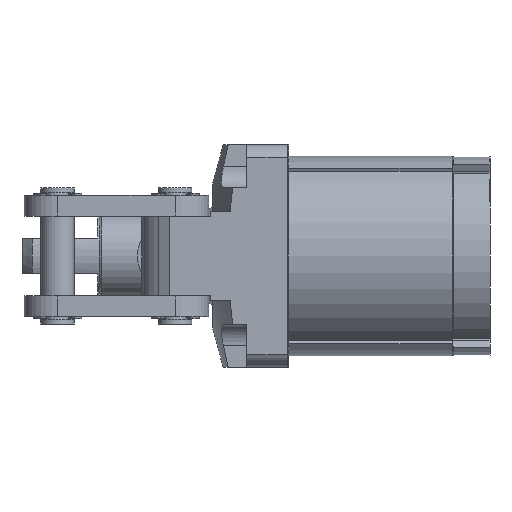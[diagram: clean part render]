
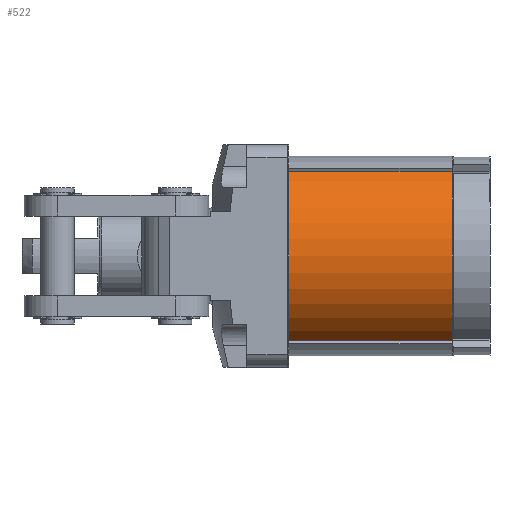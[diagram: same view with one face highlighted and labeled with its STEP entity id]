
A CAD part, left-side view. The second image highlights one B-rep face of the part: STEP entity #522.
In plain terms, the highlighted cylindrical face has radius 47.5 mm (diameter 95 mm), a partial arc.
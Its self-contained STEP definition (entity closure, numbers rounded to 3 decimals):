
#522 = ADVANCED_FACE( '', ( #1073 ), #1074, .T. );
#1073 = FACE_OUTER_BOUND( '', #1898, .T. );
#1074 = CYLINDRICAL_SURFACE( '', #1899, 47.5 );
#1898 = EDGE_LOOP( '', ( #3549, #3550, #3551, #3552 ) );
#1899 = AXIS2_PLACEMENT_3D( '', #3553, #3554, #3555 );
#3549 = ORIENTED_EDGE( '', *, *, #5673, .F. );
#3550 = ORIENTED_EDGE( '', *, *, #5726, .T. );
#3551 = ORIENTED_EDGE( '', *, *, #5602, .T. );
#3552 = ORIENTED_EDGE( '', *, *, #5727, .F. );
#3553 = CARTESIAN_POINT( '', ( 0., -78., 0. ) );
#3554 = DIRECTION( '', ( 0., -1., 0. ) );
#3555 = DIRECTION( '', ( -1., 0., 0. ) );
#5602 = EDGE_CURVE( '', #6744, #6742, #6745, .T. );
#5673 = EDGE_CURVE( '', #6857, #6859, #6860, .T. );
#5726 = EDGE_CURVE( '', #6857, #6744, #6949, .T. );
#5727 = EDGE_CURVE( '', #6859, #6742, #6950, .T. );
#6742 = VERTEX_POINT( '', #8934 );
#6744 = VERTEX_POINT( '', #8937 );
#6745 = CIRCLE( '', #8938, 47.5 );
#6857 = VERTEX_POINT( '', #9096 );
#6859 = VERTEX_POINT( '', #9099 );
#6860 = CIRCLE( '', #9100, 47.5 );
#6949 = LINE( '', #9230, #9231 );
#6950 = LINE( '', #9232, #9233 );
#8934 = CARTESIAN_POINT( '', ( -25.122, 0., -40.313 ) );
#8937 = CARTESIAN_POINT( '', ( -25.122, 0., 40.313 ) );
#8938 = AXIS2_PLACEMENT_3D( '', #10795, #10796, #10797 );
#9096 = CARTESIAN_POINT( '', ( -25.122, -78., 40.313 ) );
#9099 = CARTESIAN_POINT( '', ( -25.122, -78., -40.313 ) );
#9100 = AXIS2_PLACEMENT_3D( '', #10914, #10915, #10916 );
#9230 = CARTESIAN_POINT( '', ( -25.122, -78., 40.313 ) );
#9231 = VECTOR( '', #10991, 1000. );
#9232 = CARTESIAN_POINT( '', ( -25.122, -78., -40.313 ) );
#9233 = VECTOR( '', #10992, 1000. );
#10795 = CARTESIAN_POINT( '', ( 0., 0., 0. ) );
#10796 = DIRECTION( '', ( 0., -1., 0. ) );
#10797 = DIRECTION( '', ( 0., 0., 1. ) );
#10914 = CARTESIAN_POINT( '', ( 0., -78., 0. ) );
#10915 = DIRECTION( '', ( 0., -1., 0. ) );
#10916 = DIRECTION( '', ( 0., 0., 1. ) );
#10991 = DIRECTION( '', ( 0., 1., 0. ) );
#10992 = DIRECTION( '', ( 0., 1., 0. ) );
